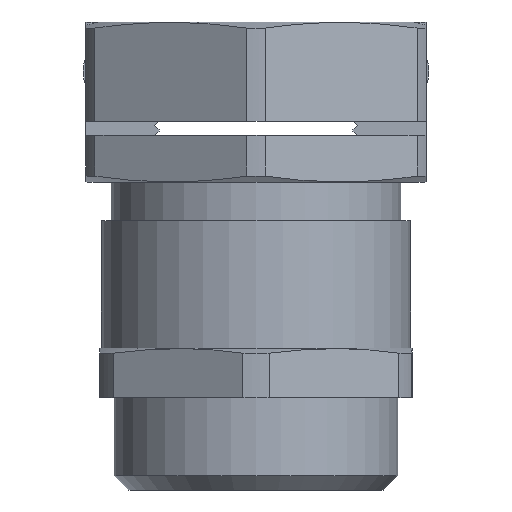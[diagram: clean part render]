
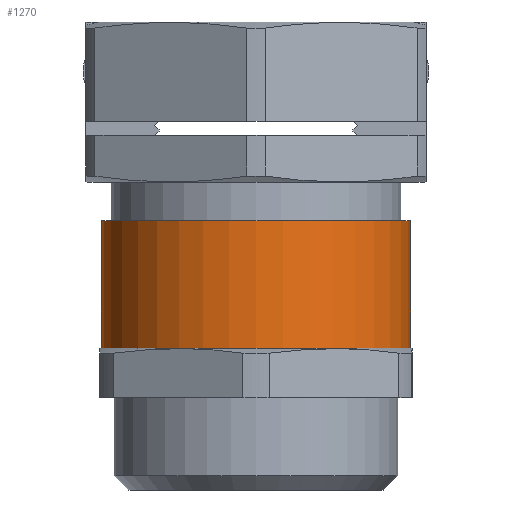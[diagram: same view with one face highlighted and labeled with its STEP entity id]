
A CAD part, front view. The second image highlights one B-rep face of the part: STEP entity #1270.
In plain terms, the highlighted cylindrical face has radius 10.9 mm (diameter 21.8 mm), a partial arc.
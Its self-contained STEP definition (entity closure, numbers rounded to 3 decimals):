
#293 = VERTEX_POINT ( 'NONE', #3212 ) ;
#295 = EDGE_CURVE ( 'NONE', #293, #296, #3211, .T. ) ;
#296 = VERTEX_POINT ( 'NONE', #3207 ) ;
#299 = VERTEX_POINT ( 'NONE', #3201 ) ;
#301 = EDGE_CURVE ( 'NONE', #321, #299, #3200, .T. ) ;
#321 = VERTEX_POINT ( 'NONE', #3558 ) ;
#649 = EDGE_CURVE ( 'NONE', #293, #321, #4191, .T. ) ;
#1269 = EDGE_CURVE ( 'NONE', #296, #299, #5340, .T. ) ;
#1270 = ADVANCED_FACE ( 'NONE', ( #5335 ), #5334, .T. ) ;
#1271 = EDGE_LOOP ( 'NONE', ( #1272, #1273, #1313, #1314 ) ) ;
#1272 = ORIENTED_EDGE ( 'NONE', *, *, #295, .F. ) ;
#1273 = ORIENTED_EDGE ( 'NONE', *, *, #649, .T. ) ;
#1313 = ORIENTED_EDGE ( 'NONE', *, *, #301, .T. ) ;
#1314 = ORIENTED_EDGE ( 'NONE', *, *, #1269, .F. ) ;
#3197 = DIRECTION ( 'NONE',  ( 0., 0., 1. ) ) ;
#3198 = VECTOR ( 'NONE', #3197, 1000. ) ;
#3199 = CARTESIAN_POINT ( 'NONE',  ( 10.9, 0., 0. ) ) ;
#3200 = LINE ( 'NONE', #3199, #3198 ) ;
#3201 = CARTESIAN_POINT ( 'NONE',  ( 10.9, 0., -14. ) ) ;
#3207 = CARTESIAN_POINT ( 'NONE',  ( -10.9, 0., -14. ) ) ;
#3208 = DIRECTION ( 'NONE',  ( 0., 0., 1. ) ) ;
#3209 = VECTOR ( 'NONE', #3208, 1000. ) ;
#3210 = CARTESIAN_POINT ( 'NONE',  ( -10.9, 0., 0. ) ) ;
#3211 = LINE ( 'NONE', #3210, #3209 ) ;
#3212 = CARTESIAN_POINT ( 'NONE',  ( -10.9, 0., -23. ) ) ;
#3558 = CARTESIAN_POINT ( 'NONE',  ( 10.9, 0., -23. ) ) ;
#4188 = DIRECTION ( 'NONE',  ( 1., 0., 0. ) ) ;
#4189 = DIRECTION ( 'NONE',  ( 0., 0., 1. ) ) ;
#4190 = AXIS2_PLACEMENT_3D ( 'NONE', #4197, #4189, #4188 ) ;
#4191 = CIRCLE ( 'NONE', #4190, 10.9 ) ;
#4197 = CARTESIAN_POINT ( 'NONE',  ( 0., 0., -23. ) ) ;
#5329 = DIRECTION ( 'NONE',  ( 1., 0., 0. ) ) ;
#5330 = DIRECTION ( 'NONE',  ( 0., 0., 1. ) ) ;
#5331 = CARTESIAN_POINT ( 'NONE',  ( 0., 0., 0. ) ) ;
#5332 = AXIS2_PLACEMENT_3D ( 'NONE', #5331, #5330, #5329 ) ;
#5334 = CYLINDRICAL_SURFACE ( 'NONE', #5332, 10.9 ) ;
#5335 = FACE_OUTER_BOUND ( 'NONE', #1271, .T. ) ;
#5336 = DIRECTION ( 'NONE',  ( 1., 0., 0. ) ) ;
#5337 = DIRECTION ( 'NONE',  ( 0., 0., 1. ) ) ;
#5338 = CARTESIAN_POINT ( 'NONE',  ( 0., 0., -14. ) ) ;
#5339 = AXIS2_PLACEMENT_3D ( 'NONE', #5338, #5337, #5336 ) ;
#5340 = CIRCLE ( 'NONE', #5339, 10.9 ) ;
